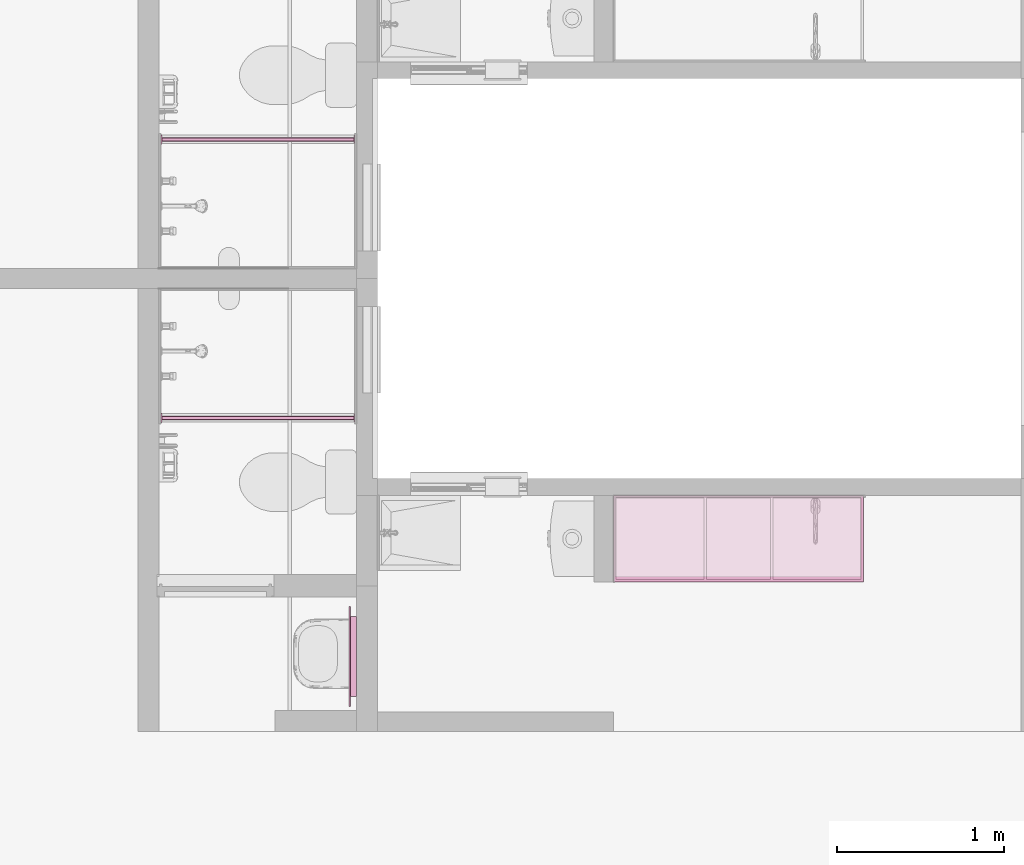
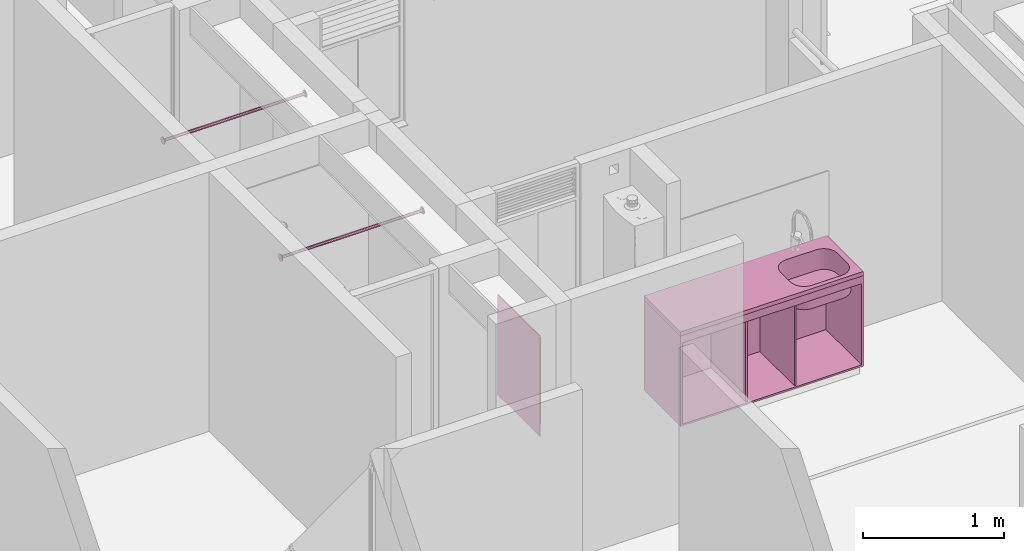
# One storey, part 42 of 48: 5 furniture elements.
"""IFC4 building model written with IfcOpenShell, lengths in metres."""

from ifc_helpers import new_model, entity, si_unit, converted_unit, derived_unit, direction, frame, origin, place, context, subcontext, project, spatial, arc, indexed_curve, outline, extrude, polygons, source, transform, mapped, material, constituent, constituent_set, type_object, type_shapes, element, save


model = new_model("IFC4")

# Units and contexts
model_context = context("Model", 3, precision=1e-05, world=origin(), true_north=direction((6.123031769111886e-17, 1.0)))
body_context = subcontext(model_context, "Body", "Model", "MODEL_VIEW")
ifc_project = project(units=[si_unit("LENGTHUNIT", "METRE"), si_unit("AREAUNIT", "SQUARE_METRE"), si_unit("VOLUMEUNIT", "CUBIC_METRE"), converted_unit("PLANEANGLEUNIT", "DEGREE", entity("IfcRatioMeasure", 0.017453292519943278), si_unit("PLANEANGLEUNIT", "RADIAN"), dimensions=[0, 0, 0, 0, 0, 0, 0]), si_unit("MASSUNIT", "GRAM", prefix="KILO"), derived_unit("MASSDENSITYUNIT", [(si_unit("MASSUNIT", "GRAM", prefix="KILO"), 1), (si_unit("LENGTHUNIT", "METRE"), -3)]), derived_unit("IONCONCENTRATIONUNIT", [(si_unit("MASSUNIT", "GRAM", prefix="KILO"), 1), (si_unit("LENGTHUNIT", "METRE"), -3)]), derived_unit("MOMENTOFINERTIAUNIT", [(si_unit("LENGTHUNIT", "METRE"), 4)]), si_unit("TIMEUNIT", "SECOND"), si_unit("FREQUENCYUNIT", "HERTZ"), si_unit("THERMODYNAMICTEMPERATUREUNIT", "DEGREE_CELSIUS"), derived_unit("THERMALTRANSMITTANCEUNIT", [(si_unit("MASSUNIT", "GRAM", prefix="KILO"), 1), (si_unit("THERMODYNAMICTEMPERATUREUNIT", "KELVIN"), -1), (si_unit("TIMEUNIT", "SECOND"), -3)]), derived_unit("THERMALCONDUCTANCEUNIT", [(si_unit("MASSUNIT", "GRAM", prefix="KILO"), 1), (si_unit("THERMODYNAMICTEMPERATUREUNIT", "KELVIN"), -1), (si_unit("TIMEUNIT", "SECOND"), -3), (si_unit("LENGTHUNIT", "METRE"), 1)]), derived_unit("VOLUMETRICFLOWRATEUNIT", [(si_unit("LENGTHUNIT", "METRE"), 3), (si_unit("TIMEUNIT", "SECOND"), -1)]), derived_unit("MASSFLOWRATEUNIT", [(si_unit("MASSUNIT", "GRAM", prefix="KILO"), 1), (si_unit("TIMEUNIT", "SECOND"), -1)]), derived_unit("ROTATIONALFREQUENCYUNIT", [(si_unit("TIMEUNIT", "SECOND"), -1)]), si_unit("ELECTRICCURRENTUNIT", "AMPERE"), si_unit("ELECTRICVOLTAGEUNIT", "VOLT"), si_unit("POWERUNIT", "WATT"), si_unit("FORCEUNIT", "NEWTON", prefix="KILO"), si_unit("ILLUMINANCEUNIT", "LUX"), si_unit("LUMINOUSFLUXUNIT", "LUMEN"), si_unit("LUMINOUSINTENSITYUNIT", "CANDELA"), derived_unit("USERDEFINED", [(si_unit("MASSUNIT", "GRAM", prefix="KILO"), -1), (si_unit("LENGTHUNIT", "METRE"), -2), (si_unit("TIMEUNIT", "SECOND"), 3), (si_unit("LUMINOUSFLUXUNIT", "LUMEN"), 1)]), derived_unit("USERDEFINED", [(si_unit("MASSUNIT", "GRAM", prefix="KILO"), 1), (si_unit("TIMEUNIT", "SECOND"), -3), (si_unit("LENGTHUNIT", "METRE"), 3), (si_unit("ELECTRICCURRENTUNIT", "AMPERE"), -2)]), derived_unit("SOUNDPOWERUNIT", [(si_unit("MASSUNIT", "GRAM", prefix="KILO"), 1), (si_unit("TIMEUNIT", "SECOND"), -3), (si_unit("LENGTHUNIT", "METRE"), 2)]), derived_unit("SOUNDPRESSUREUNIT", [(si_unit("MASSUNIT", "GRAM", prefix="KILO"), 1), (si_unit("LENGTHUNIT", "METRE"), -1), (si_unit("TIMEUNIT", "SECOND"), -2)]), derived_unit("LINEARVELOCITYUNIT", [(si_unit("LENGTHUNIT", "METRE"), 1), (si_unit("TIMEUNIT", "SECOND"), -1)]), si_unit("PRESSUREUNIT", "PASCAL"), derived_unit("USERDEFINED", [(si_unit("MASSUNIT", "GRAM", prefix="KILO"), 1), (si_unit("LENGTHUNIT", "METRE"), -2), (si_unit("TIMEUNIT", "SECOND"), -2)]), derived_unit("LINEARFORCEUNIT", [(si_unit("MASSUNIT", "GRAM", prefix="KILO"), 1), (si_unit("TIMEUNIT", "SECOND"), -2)]), derived_unit("PLANARFORCEUNIT", [(si_unit("MASSUNIT", "GRAM", prefix="KILO"), 1), (si_unit("LENGTHUNIT", "METRE"), -1), (si_unit("TIMEUNIT", "SECOND"), -2)]), derived_unit("SPECIFICHEATCAPACITYUNIT", [(si_unit("THERMODYNAMICTEMPERATUREUNIT", "KELVIN"), -1), (si_unit("LENGTHUNIT", "METRE"), 2), (si_unit("TIMEUNIT", "SECOND"), -2)]), derived_unit("HEATINGVALUEUNIT", [(si_unit("LENGTHUNIT", "METRE"), 2), (si_unit("TIMEUNIT", "SECOND"), -2)]), derived_unit("VAPORPERMEABILITYUNIT", [(si_unit("LENGTHUNIT", "METRE"), -1), (si_unit("TIMEUNIT", "SECOND"), 1)]), derived_unit("DYNAMICVISCOSITYUNIT", [(si_unit("MASSUNIT", "GRAM", prefix="KILO"), 1), (si_unit("TIMEUNIT", "SECOND"), -1), (si_unit("LENGTHUNIT", "METRE"), -1)]), derived_unit("THERMALEXPANSIONCOEFFICIENTUNIT", [(si_unit("THERMODYNAMICTEMPERATUREUNIT", "KELVIN"), -1)]), derived_unit("MODULUSOFELASTICITYUNIT", [(si_unit("MASSUNIT", "GRAM", prefix="KILO"), 1), (si_unit("LENGTHUNIT", "METRE"), -1), (si_unit("TIMEUNIT", "SECOND"), -2)]), derived_unit("ISOTHERMALMOISTURECAPACITYUNIT", [(si_unit("LENGTHUNIT", "METRE"), 3), (si_unit("MASSUNIT", "GRAM", prefix="KILO"), -1)]), derived_unit("MOISTUREDIFFUSIVITYUNIT", [(si_unit("TIMEUNIT", "SECOND"), -1), (si_unit("LENGTHUNIT", "METRE"), 2)])], contexts=[model_context])

# Site, building, storey
site_placement = place(None, origin())
site = spatial("IfcSite", under=ifc_project, at=site_placement, Name="Default", CompositionType="ELEMENT")
building_placement = place(site_placement, origin())
building = spatial("IfcBuilding", under=site, at=building_placement, CompositionType="ELEMENT")
storey_placement = place(building_placement, frame((0.0, 0.0, 9.40000000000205)))
storey = spatial("IfcBuildingStorey", under=building, at=storey_placement, Name="Nivel 5", CompositionType="ELEMENT", Elevation=9.40000000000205)

# Furniture
ifc_material_1 = material(Name="Aluminio", Category="Materials")
ifc_constituent_1 = constituent(ifc_material_1, Name="Aluminio", Category="Materials")
ifc_material_2 = material(Name="ESPEJO", Category="Materials")
ifc_constituent_2 = constituent(ifc_material_2, Name="ESPEJO", Category="Materials")
ifc_constituent_set_1 = constituent_set(constituents=[ifc_constituent_1, ifc_constituent_2])
ifc_constituent_3 = constituent(ifc_material_1, Name="Aluminio", Category="Materials")
ifc_constituent_4 = constituent(ifc_material_2, Name="ESPEJO", Category="Materials")
ifc_constituent_set_2 = constituent_set(constituents=[ifc_constituent_3, ifc_constituent_4])
furniture_type_1 = type_object("IfcFurnitureType", Name="E2050 - Espejo:E2050 - 0.60m x 0.87m - Espejo", AssemblyPlace="NOTDEFINED", PredefinedType="NOTDEFINED", material=ifc_constituent_set_2)
shared_shape_1 = source(origin(), body_context, "Body", "SweptSolid", [
    extrude(outline(indexed_curve([(-0.23999999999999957, -0.3749999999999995), (0.2399999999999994, -0.3749999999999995), (0.2399999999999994, 0.37499999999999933), (-0.23999999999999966, 0.3749999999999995), (-0.23999999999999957, -0.3749999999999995)], self_intersect=False), holes=[indexed_curve([(0.2149999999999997, -0.34999999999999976), (-0.21499999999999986, -0.34999999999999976), (-0.21499999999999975, 0.34999999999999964), (0.2149999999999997, 0.34999999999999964), (0.2149999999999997, -0.34999999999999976)], self_intersect=False)]), frame((0.12499999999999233, 0.062499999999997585, 1.485), z_axis=(0.0, 1.0, 0.0), x_axis=(1.0, 0.0, 0.0)), (0.0, 0.0, 1.0), 0.037500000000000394),
    extrude(outline(indexed_curve([(-0.00350000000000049, -0.30000000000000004), (0.00350000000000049, -0.30000000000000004), (0.00350000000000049, 0.30000000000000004), (-0.00350000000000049, 0.30000000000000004), (-0.00350000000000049, -0.30000000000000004)], self_intersect=False)), frame((0.1249999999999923, 0.10350000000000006, 1.05), z_axis=(0.0, 0.0, 1.0), x_axis=(0.0, 1.0, 0.0)), (0.0, 0.0, 1.0), 0.87),
])
type_shapes(furniture_type_1, [shared_shape_1])
furniture_1_placement = place(storey_placement, frame((4.024999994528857, -8.815000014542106, -0.020000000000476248), z_axis=(0.0, 0.0, 1.0), x_axis=(0.0, 1.0, 0.0)))
element("IfcFurniture", 1, at=furniture_1_placement, inside=storey, type_object=furniture_type_1, material=ifc_constituent_set_1, Name="E2050 - Espejo:E2050 - 0.60m x 0.87m - Espejo", ObjectType="E2050 - Espejo:E2050 - 0.60m x 0.87m - Espejo", PredefinedType="NOTDEFINED", context=body_context, shape_type="MappedRepresentation", body=[
    mapped(shared_shape_1, transform((0.0, 0.0, 0.0), scale=1.0)),
])

# Space
space_1_placement = place(storey_placement, origin())
space_1 = spatial("IfcSpace", under=storey, at=space_1_placement, Name="268", CompositionType="ELEMENT", PredefinedType="SPACE")

# Furniture
ifc_material_3 = material(Name="<Unnamed>")
furniture_type_2 = type_object("IfcFurnitureType", Name="Barra baño:E2050- Barra Baño- Acero inoxidable", AssemblyPlace="NOTDEFINED", PredefinedType="NOTDEFINED", material=ifc_material_3)
shared_shape_2 = source(origin(), body_context, "Body", "SweptSolid", [
    extrude(outline(indexed_curve([(-0.025, 0.0), (-9.341026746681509e-17, -0.025), (0.025, 2.707167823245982e-16), (-1.316959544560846e-16, 0.025)], segments=[arc(1, 2, 3), arc(3, 4, 1)], self_intersect=False)), frame((-1.1599989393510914, 0.0, 1.8000000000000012), z_axis=(1.0, 0.0, 0.0), x_axis=(0.0, 1.0, 0.0)), (0.0, 0.0, 1.0), 0.005000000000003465),
    extrude(outline(indexed_curve([(-0.03, 0.0), (-1.1209232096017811e-16, -0.029999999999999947), (0.03, 2.707167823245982e-16), (-1.3138979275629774e-16, 0.029999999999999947)], segments=[arc(1, 2, 3), arc(3, 4, 1)], self_intersect=False)), frame((-1.164998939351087, 0.0, 1.8000000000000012), z_axis=(1.0, 0.0, 0.0), x_axis=(0.0, 1.0, 0.0)), (0.0, 0.0, 1.0), 0.0049999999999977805),
    extrude(outline(indexed_curve([(-0.0125, 0.0), (-4.6705133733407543e-17, -0.012499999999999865), (0.0125, 0.0), (7.654042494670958e-19, 0.012499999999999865)], segments=[arc(1, 2, 3), arc(3, 4, 1)], self_intersect=False)), frame((-1.1549989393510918, 0.0, 1.7999999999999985), z_axis=(1.0, 0.0, 0.0), x_axis=(0.0, 1.0, 0.0)), (0.0, 0.0, 1.0), 1.149998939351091),
    extrude(outline(indexed_curve([(-0.025, 0.0), (-2.2663703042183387e-16, -0.025), (0.025, 0.0), (1.5308084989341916e-18, 0.025)], segments=[arc(1, 2, 3), arc(3, 4, 1)], self_intersect=False)), frame((-0.005000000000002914, 0.0, 1.7999999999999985), z_axis=(1.0, 0.0, 0.0), x_axis=(0.0, 1.0, 0.0)), (0.0, 0.0, 1.0), 0.005000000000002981),
    extrude(outline(indexed_curve([(-0.03, 0.0), (-2.1867373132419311e-16, -0.029999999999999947), (0.03, 0.0), (1.8369701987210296e-18, 0.029999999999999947)], segments=[arc(1, 2, 3), arc(3, 4, 1)], self_intersect=False)), frame((0.0, 0.0, 1.7999999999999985), z_axis=(1.0, 0.0, 0.0), x_axis=(0.0, 1.0, 0.0)), (0.0, 0.0, 1.0), 0.00499999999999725),
])
type_shapes(furniture_type_2, [shared_shape_2])
furniture_2_placement = place(space_1_placement, frame((3.952499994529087, -7.260000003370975, 0.1299999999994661)))
element("IfcFurniture", 2, at=furniture_2_placement, inside=space_1, type_object=furniture_type_2, material=ifc_material_3, Name="Barra baño:E2050- Barra Baño- Acero inoxidable", ObjectType="Barra baño:E2050- Barra Baño- Acero inoxidable", PredefinedType="NOTDEFINED", context=body_context, shape_type="MappedRepresentation", body=[
    mapped(shared_shape_2, transform((0.0, 0.0, 0.0), scale=1.0)),
])

# Space
space_2_placement = place(storey_placement, origin())
space_2 = spatial("IfcSpace", under=storey, at=space_2_placement, Name="261", CompositionType="ELEMENT", PredefinedType="SPACE")

# Furniture
furniture_type_3 = type_object("IfcFurnitureType", Name="Barra baño:E2050- Barra Baño- Acero inoxidable", AssemblyPlace="NOTDEFINED", PredefinedType="NOTDEFINED", material=ifc_material_3)
shared_shape_3 = source(origin(), body_context, "Body", "SweptSolid", [
    extrude(outline(indexed_curve([(-0.025, 2.707167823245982e-16), (-2.9325041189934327e-16, -0.025), (0.025, 0.0), (7.924642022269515e-17, 0.025)], segments=[arc(1, 2, 3), arc(3, 4, 1)], self_intersect=False)), frame((-1.1599989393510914, 0.0, 1.8000000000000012), z_axis=(1.0, 0.0, 0.0), x_axis=(0.0, -1.0, 0.0)), (0.0, 0.0, 1.0), 0.005000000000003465),
    extrude(outline(indexed_curve([(-0.03, 2.707167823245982e-16), (-3.2525514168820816e-16, -0.029999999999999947), (0.03, 0.0), (9.509570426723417e-17, 0.029999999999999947)], segments=[arc(1, 2, 3), arc(3, 4, 1)], self_intersect=False)), frame((-1.164998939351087, 0.0, 1.8000000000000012), z_axis=(1.0, 0.0, 0.0), x_axis=(0.0, -1.0, 0.0)), (0.0, 0.0, 1.0), 0.0049999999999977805),
    extrude(outline(indexed_curve([(-0.0125, 0.0), (-8.001182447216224e-17, -0.012499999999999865), (0.0125, 0.0), (3.9623210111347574e-17, 0.012499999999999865)], segments=[arc(1, 2, 3), arc(3, 4, 1)], self_intersect=False)), frame((-1.1549989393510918, 0.0, 1.7999999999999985), z_axis=(1.0, 0.0, 0.0), x_axis=(0.0, -1.0, 0.0)), (0.0, 0.0, 1.0), 1.149998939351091),
    extrude(outline(indexed_curve([(-0.025, 0.0), (-1.600236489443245e-16, -0.025000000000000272), (0.025, 0.0), (-5.398034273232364e-17, 0.02499999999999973)], segments=[arc(1, 2, 3), arc(3, 4, 1)], self_intersect=False)), frame((-0.005000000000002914, 0.0, 1.7999999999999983), z_axis=(1.0, 0.0, 0.0), x_axis=(0.0, -1.0, 0.0)), (0.0, 0.0, 1.0), 0.005000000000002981),
    extrude(outline(indexed_curve([(-0.03, 0.0), (-1.9202837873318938e-16, -0.030000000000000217), (0.03, 0.0), (-3.813105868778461e-17, 0.029999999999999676)], segments=[arc(1, 2, 3), arc(3, 4, 1)], self_intersect=False)), frame((0.0, 0.0, 1.7999999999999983), z_axis=(1.0, 0.0, 0.0), x_axis=(0.0, -1.0, 0.0)), (0.0, 0.0, 1.0), 0.00499999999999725),
])
type_shapes(furniture_type_3, [shared_shape_3])
furniture_3_placement = place(space_2_placement, frame((3.952499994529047, -5.590000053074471, 0.1299999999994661)))
element("IfcFurniture", 3, at=furniture_3_placement, inside=space_2, type_object=furniture_type_3, material=ifc_material_3, Name="Barra baño:E2050- Barra Baño- Acero inoxidable", ObjectType="Barra baño:E2050- Barra Baño- Acero inoxidable", PredefinedType="NOTDEFINED", context=body_context, shape_type="MappedRepresentation", body=[
    mapped(shared_shape_3, transform((0.0, 0.0, 0.0), scale=1.0)),
])

# Space
space_3_placement = place(storey_placement, origin())
space_3 = spatial("IfcSpace", under=storey, at=space_3_placement, Name="271", CompositionType="ELEMENT", PredefinedType="SPACE")

# Furniture
ifc_material_4 = material(Name="mueble cocina", Category="Materials")
furniture_type_4 = type_object("IfcFurnitureType", Name="E2010 - Mueble bajo de cocina - Madera:E2010 - 1.50 x 0.52 - Mueble bajo de cocina - Madera", AssemblyPlace="NOTDEFINED", PredefinedType="NOTDEFINED", material=ifc_material_4)
shared_shape_4 = source(origin(), body_context, "Body", "SweptSolid", [
    extrude(outline(indexed_curve([(-0.007500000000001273, -0.7349999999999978), (0.007499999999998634, -0.7349999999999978), (0.007500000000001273, 0.7349999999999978), (-0.007499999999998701, 0.7349999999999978), (-0.007500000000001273, -0.7349999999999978)], self_intersect=False)), frame((0.04470032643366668, -0.5125000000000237, 0.8149999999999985), z_axis=(0.0, 0.0, 1.0), x_axis=(0.0, -1.0, 0.0)), (0.0, 0.0, 1.0), 0.06500000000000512),
    extrude(outline(indexed_curve([(-0.2600000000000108, -0.7499999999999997), (0.260000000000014, -0.7499999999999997), (0.2600000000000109, 0.7500000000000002), (-0.2600000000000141, 0.7499999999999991), (-0.2600000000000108, -0.7499999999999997)], self_intersect=False)), frame((0.04470032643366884, -0.2600000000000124, 0.09500000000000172), z_axis=(0.0, 0.0, 1.0), x_axis=(0.0, -1.0, 0.0)), (0.0, 0.0, 1.0), 0.0149999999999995),
    extrude(outline(indexed_curve([(-0.007500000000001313, -0.7500000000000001), (0.007499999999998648, -0.7500000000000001), (0.0075000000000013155, 0.7500000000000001), (-0.007499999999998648, 0.7500000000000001), (-0.007500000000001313, -0.7500000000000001)], self_intersect=False)), frame((0.04470032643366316, -0.00749999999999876, 0.11000000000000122), z_axis=(0.0, 0.0, 1.0), x_axis=(0.0, -1.0, 0.0)), (0.0, 0.0, 1.0), 0.7700000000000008),
    extrude(outline(indexed_curve([(-0.007500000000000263, -0.24500000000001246), (0.007499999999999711, -0.24500000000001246), (0.007500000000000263, 0.24500000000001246), (-0.007499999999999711, 0.24500000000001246), (-0.007500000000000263, -0.24500000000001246)], self_intersect=False)), frame((-0.1552996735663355, -0.2600000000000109, 0.11000000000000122), z_axis=(0.0, 0.0, 1.0), x_axis=(-1.0, 0.0, 0.0)), (0.0, 0.0, 1.0), 0.7700000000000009),
    extrude(outline(indexed_curve([(-0.007499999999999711, -0.24500000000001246), (0.007500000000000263, -0.24500000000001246), (0.007499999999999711, 0.24500000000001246), (-0.007500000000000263, 0.24500000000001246), (-0.007499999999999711, -0.24500000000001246)], self_intersect=False)), frame((0.24470032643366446, -0.26000000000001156, 0.11000000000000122), z_axis=(0.0, 0.0, 1.0), x_axis=(-1.0, 0.0, 0.0)), (0.0, 0.0, 1.0), 0.7700000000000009),
    extrude(outline(indexed_curve([(-0.00750000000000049, -0.2525000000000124), (0.0074999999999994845, -0.25250000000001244), (0.007500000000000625, 0.2525000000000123), (-0.007499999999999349, 0.2525000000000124), (-0.00750000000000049, -0.2525000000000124)], self_intersect=False)), frame((0.7872003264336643, -0.2675000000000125, 0.11000000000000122), z_axis=(0.0, 0.0, 1.0), x_axis=(-1.0, 0.0, 0.0)), (0.0, 0.0, 1.0), 0.7700000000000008),
    extrude(outline(indexed_curve([(-0.007499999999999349, -0.2525000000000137), (0.007500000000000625, -0.2525000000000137), (0.0074999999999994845, 0.25250000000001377), (-0.00750000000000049, 0.2525000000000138), (-0.007499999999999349, -0.2525000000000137)], self_intersect=False)), frame((-0.697799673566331, -0.2675000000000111, 0.11000000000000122), z_axis=(0.0, 0.0, 1.0), x_axis=(-1.0, 0.0, 0.0)), (0.0, 0.0, 1.0), 0.7700000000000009),
])
type_shapes(furniture_type_4, [shared_shape_4])
furniture_4_placement = place(space_3_placement, frame((6.207799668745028, -7.7250000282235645, 0.014999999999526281)))
element("IfcFurniture", 4, at=furniture_4_placement, inside=space_3, type_object=furniture_type_4, material=ifc_material_4, Name="E2010 - Mueble bajo de cocina - Madera:E2010 - 1.50 x 0.52 - Mueble bajo de cocina - Madera", ObjectType="E2010 - Mueble bajo de cocina - Madera:E2010 - 1.50 x 0.52 - Mueble bajo de cocina - Madera", PredefinedType="NOTDEFINED", context=body_context, shape_type="MappedRepresentation", body=[
    mapped(shared_shape_4, transform((0.0, 0.0, 0.0), scale=1.0)),
])
ifc_material_5 = material(Name="Mesón cocina", Category="Materials")
furniture_type_5 = type_object("IfcFurnitureType", Name="E1060 - Meson Socoda Radiante - 1.50 X 0.52 - Acero inoxidable:E1060 - 1.50 x 0.52 - Meson de cocina, lavadero y estufa - Acero inoxidable", AssemblyPlace="NOTDEFINED", PredefinedType="NOTDEFINED", material=ifc_material_5)
shared_shape_5 = source(origin(), body_context, "Body", "Tessellation", [
    polygons([(0.7500000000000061, 0.2600000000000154, 0.03499999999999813), (-0.7499999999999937, 0.2600000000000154, 0.03499999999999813), (-0.7499999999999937, -0.2600000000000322, 0.03499999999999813), (0.7500000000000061, -0.2600000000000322, 0.03499999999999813), (0.23610399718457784, 0.03077661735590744, 0.03499999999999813), (0.23985215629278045, 0.05924671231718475, 0.03499999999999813), (0.2508412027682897, 0.08577661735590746, 0.03499999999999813), (0.2683222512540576, 0.10855836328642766, 0.03499999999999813), (0.2911039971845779, 0.1260394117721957, 0.03499999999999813), (0.31763390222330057, 0.13702845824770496, 0.03499999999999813), (0.3461039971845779, 0.1407766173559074, 0.03499999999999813), (0.593473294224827, 0.14077661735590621, 0.03499999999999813), (0.6219433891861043, 0.13702845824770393, 0.03499999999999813), (0.6484732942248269, 0.1260394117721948, 0.03499999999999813), (0.6712550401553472, 0.10855836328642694, 0.03499999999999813), (0.6887360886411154, 0.08577661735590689, 0.03499999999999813), (0.6997251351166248, 0.05924671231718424, 0.03499999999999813), (0.7034732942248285, 0.03077661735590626, 0.03499999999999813), (0.703473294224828, -0.11422338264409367, 0.03499999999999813), (0.6997251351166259, -0.14269347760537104, 0.03499999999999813), (0.6887360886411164, -0.1692233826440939, 0.03499999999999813), (0.6712550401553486, -0.1920051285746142, 0.03499999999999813), (0.6484732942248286, -0.20948617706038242, 0.03499999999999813), (0.6219433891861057, -0.22047522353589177, 0.03499999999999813), (0.5934732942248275, -0.22422338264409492, 0.03499999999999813), (0.3461039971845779, -0.22422338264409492, 0.03499999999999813), (0.31763390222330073, -0.22047522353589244, 0.03499999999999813), (0.2911039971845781, -0.20948617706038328, 0.03499999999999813), (0.2683222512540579, -0.1920051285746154, 0.03499999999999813), (0.2508412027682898, -0.1692233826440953, 0.03499999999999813), (0.23985215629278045, -0.14269347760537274, 0.03499999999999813), (0.23610399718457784, -0.11422338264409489, 0.03499999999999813), (0.7500000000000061, 0.2600000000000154, -1.8678232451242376e-15), (0.7500000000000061, -0.2600000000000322, -1.8678232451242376e-15), (-0.7499999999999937, -0.2600000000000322, -1.8678232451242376e-15), (-0.7499999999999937, 0.2600000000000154, -1.8678232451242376e-15), (0.5934732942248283, 0.1507766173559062, -1.8678232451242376e-15), (0.34610399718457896, 0.1507766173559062, -1.8678232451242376e-15), (0.31504571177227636, 0.1466877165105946, -1.8678232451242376e-15), (0.2861039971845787, 0.13469966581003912, -1.8678232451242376e-15), (0.2612511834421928, 0.11562943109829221, -1.8678232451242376e-15), (0.2421809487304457, 0.09077661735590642, -1.8678232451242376e-15), (0.23019289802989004, 0.06183490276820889, -1.8678232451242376e-15), (0.22610399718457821, 0.030776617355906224, -1.8678232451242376e-15), (0.22610399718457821, -0.11422338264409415, -1.8678232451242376e-15), (0.2301928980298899, -0.14528166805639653, -1.8678232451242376e-15), (0.24218094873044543, -0.17422338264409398, -1.8678232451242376e-15), (0.2612511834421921, -0.19907619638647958, -1.8678232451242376e-15), (0.2861039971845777, -0.2181464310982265, -1.8678232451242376e-15), (0.31504571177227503, -0.2301344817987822, -1.8678232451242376e-15), (0.3461039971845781, -0.23422338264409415, -1.8678232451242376e-15), (0.5934732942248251, -0.23422338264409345, -1.8678232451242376e-15), (0.6245315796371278, -0.2301344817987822, -1.8678232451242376e-15), (0.6534732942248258, -0.21814643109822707, -1.8678232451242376e-15), (0.6783261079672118, -0.19907619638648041, -1.8678232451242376e-15), (0.6973963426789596, -0.17422338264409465, -1.8678232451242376e-15), (0.7093843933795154, -0.14528166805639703, -1.8678232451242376e-15), (0.7134732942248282, -0.11422338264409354, -1.8678232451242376e-15), (0.7134732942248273, 0.030776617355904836, -1.8678232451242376e-15), (0.7093843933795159, 0.061834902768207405, -1.8678232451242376e-15), (0.6973963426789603, 0.09077661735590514, -1.8678232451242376e-15), (0.6783261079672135, 0.11562943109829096, -1.8678232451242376e-15), (0.6534732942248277, 0.13469966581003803, -1.8678232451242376e-15), (0.62453157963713, 0.1466877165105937, -1.8678232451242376e-15), (0.5934732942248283, 0.15077661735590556, -0.16000000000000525), (0.6245315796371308, 0.1466877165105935, -0.16000000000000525), (0.6534732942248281, 0.13469966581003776, -0.16000000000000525), (0.6783261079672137, 0.1156294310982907, -0.16000000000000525), (0.6973963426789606, 0.0907766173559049, -0.16000000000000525), (0.7093843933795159, 0.06183490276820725, -0.16000000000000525), (0.7134732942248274, 0.030776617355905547, -0.16000000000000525), (0.7134732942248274, -0.11422338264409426, -0.16000000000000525), (0.7093843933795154, -0.1452816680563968, -0.16000000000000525), (0.6973963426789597, -0.1742233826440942, -0.16000000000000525), (0.6783261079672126, -0.19907619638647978, -0.16000000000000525), (0.6534732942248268, -0.21814643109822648, -0.16000000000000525), (0.6245315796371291, -0.2301344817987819, -0.16000000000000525), (0.5934732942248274, -0.2342233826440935, -0.16000000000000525), (0.3461039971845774, -0.23422338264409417, -0.16000000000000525), (0.3150457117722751, -0.23013448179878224, -0.16000000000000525), (0.28610399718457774, -0.21814643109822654, -0.16000000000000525), (0.26125118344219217, -0.19907619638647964, -0.16000000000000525), (0.24218094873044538, -0.17422338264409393, -0.16000000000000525), (0.2301928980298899, -0.14528166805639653, -0.16000000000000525), (0.22610399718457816, -0.11422338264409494, -0.16000000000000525), (0.22610399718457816, 0.030776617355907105, -0.16000000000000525), (0.23019289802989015, 0.06183490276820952, -0.16000000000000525), (0.2421809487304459, 0.09077661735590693, -0.16000000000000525), (0.261251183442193, 0.11562943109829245, -0.16000000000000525), (0.2861039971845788, 0.13469966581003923, -0.16000000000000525), (0.31504571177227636, 0.1466877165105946, -0.16000000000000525), (0.3461039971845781, 0.1507766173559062, -0.16000000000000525), (0.3461039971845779, 0.14077661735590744, -0.14475899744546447), (0.31763390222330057, 0.13702845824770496, -0.14475899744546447), (0.2911039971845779, 0.1260394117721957, -0.14475899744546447), (0.2683222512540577, 0.10855836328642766, -0.14475899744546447), (0.25084120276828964, 0.08577661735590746, -0.14475899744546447), (0.2398521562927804, 0.05924671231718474, -0.14475899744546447), (0.23610399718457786, 0.03077661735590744, -0.14475899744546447), (0.23610399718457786, -0.11422338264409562, -0.14475899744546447), (0.23985215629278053, -0.14269347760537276, -0.14475899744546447), (0.25084120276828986, -0.16922338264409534, -0.14475899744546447), (0.2683222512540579, -0.19200512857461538, -0.14475899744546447), (0.2911039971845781, -0.20948617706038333, -0.14475899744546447), (0.31763390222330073, -0.22047522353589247, -0.14475899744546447), (0.3461039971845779, -0.2242233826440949, -0.14475899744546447), (0.5934732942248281, -0.22422338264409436, -0.14475899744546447), (0.6219433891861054, -0.22047522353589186, -0.14475899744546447), (0.6484732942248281, -0.20948617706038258, -0.14475899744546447), (0.6712550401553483, -0.19200512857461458, -0.14475899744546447), (0.6887360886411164, -0.16922338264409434, -0.14475899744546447), (0.6997251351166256, -0.14269347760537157, -0.14475899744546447), (0.7034732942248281, -0.11422338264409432, -0.14475899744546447), (0.7034732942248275, 0.030776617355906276, -0.14475899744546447), (0.699725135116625, 0.05924671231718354, -0.14475899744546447), (0.6887360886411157, 0.08577661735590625, -0.14475899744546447), (0.6712550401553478, 0.10855836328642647, -0.14475899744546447), (0.6484732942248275, 0.1260394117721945, -0.14475899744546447), (0.6219433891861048, 0.13702845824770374, -0.14475899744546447), (0.5934732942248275, 0.14077661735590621, -0.14475899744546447)], [[[1, 2, 3, 4], [17, 18, 19, 20, 21, 22, 23, 24, 25, 26, 27, 28, 29, 30, 31, 32, 5, 6, 7, 8, 9, 10, 11, 12, 13, 14, 15, 16]], [[118, 119, 120, 93, 94, 95, 96, 97, 98, 99, 100, 101, 102, 103, 104, 105, 106, 107, 108, 109, 110, 111, 112, 113, 114, 115, 116, 117]], [[36, 33, 34, 35], [43, 44, 45, 46, 47, 48, 49, 50, 51, 52, 53, 54, 55, 56, 57, 58, 59, 60, 61, 62, 63, 64, 37, 38, 39, 40, 41, 42]], [[89, 90, 91, 92, 65, 66, 67, 68, 69, 70, 71, 72, 73, 74, 75, 76, 77, 78, 79, 80, 81, 82, 83, 84, 85, 86, 87, 88]], [[2, 1, 33, 36]], [[38, 37, 65, 92]], [[106, 26, 25, 107]], [[3, 2, 36, 35]], [[45, 44, 86, 85]], [[114, 113, 19, 18]], [[4, 3, 35, 34]], [[52, 51, 79, 78]], [[120, 12, 11, 93]], [[1, 4, 34, 33]], [[59, 58, 72, 71]], [[99, 5, 32, 100]], [[39, 91, 90, 40]], [[109, 108, 24, 23]], [[40, 90, 89, 41]], [[110, 109, 23, 22]], [[92, 91, 39, 38]], [[25, 24, 108, 107]], [[42, 88, 87, 43]], [[112, 111, 21, 20]], [[43, 87, 86, 44]], [[113, 112, 20, 19]], [[41, 89, 88, 42]], [[21, 111, 110, 22]], [[46, 84, 83, 47]], [[17, 16, 116, 115]], [[47, 83, 82, 48]], [[16, 15, 117, 116]], [[85, 84, 46, 45]], [[115, 114, 18, 17]], [[49, 81, 80, 50]], [[119, 118, 14, 13]], [[50, 80, 79, 51]], [[120, 119, 13, 12]], [[48, 82, 81, 49]], [[14, 118, 117, 15]], [[53, 77, 76, 54]], [[95, 94, 10, 9]], [[54, 76, 75, 55]], [[96, 95, 9, 8]], [[78, 77, 53, 52]], [[11, 10, 94, 93]], [[56, 74, 73, 57]], [[98, 97, 7, 6]], [[57, 73, 72, 58]], [[99, 98, 6, 5]], [[55, 75, 74, 56]], [[7, 97, 96, 8]], [[60, 70, 69, 61]], [[102, 101, 31, 30]], [[61, 69, 68, 62]], [[103, 102, 30, 29]], [[71, 70, 60, 59]], [[32, 31, 101, 100]], [[63, 67, 66, 64]], [[105, 104, 28, 27]], [[64, 66, 65, 37]], [[106, 105, 27, 26]], [[62, 68, 67, 63]], [[28, 104, 103, 29]]], closed=True),
])
type_shapes(furniture_type_5, [shared_shape_5])
furniture_5_placement = place(space_3_placement, frame((6.252499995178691, -7.98500002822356, 0.8949999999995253)))
element("IfcFurniture", 5, at=furniture_5_placement, inside=space_3, type_object=furniture_type_5, material=ifc_material_5, Name="E1060 - Meson Socoda Radiante - 1.50 X 0.52 - Acero inoxidable:E1060 - 1.50 x 0.52 - Meson de cocina, lavadero y estufa - Acero inoxidable", ObjectType="E1060 - Meson Socoda Radiante - 1.50 X 0.52 - Acero inoxidable:E1060 - 1.50 x 0.52 - Meson de cocina, lavadero y estufa - Acero inoxidable", PredefinedType="NOTDEFINED", context=body_context, shape_type="MappedRepresentation", body=[
    mapped(shared_shape_5, transform((0.0, 0.0, 0.0), scale=1.0)),
])

save(model, "model.ifc")
